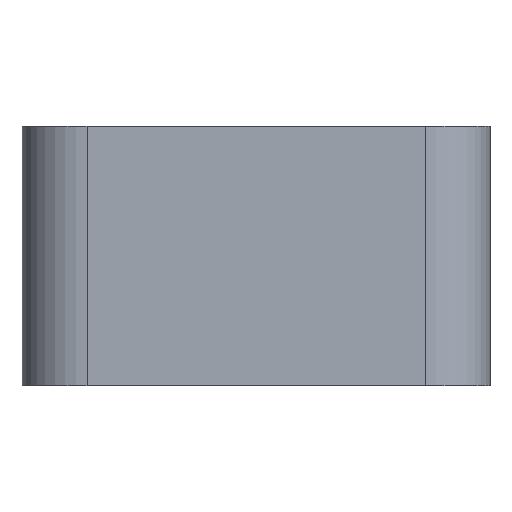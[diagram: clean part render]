
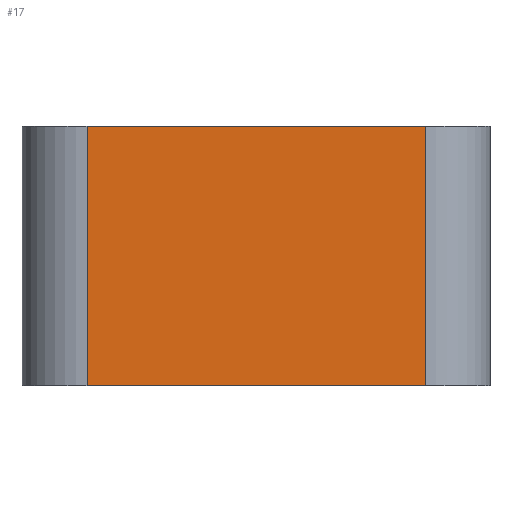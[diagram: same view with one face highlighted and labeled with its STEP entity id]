
A CAD part, left-side view. The second image highlights one B-rep face of the part: STEP entity #17.
In plain terms, the highlighted planar face has unit normal (-1, 0, 0).
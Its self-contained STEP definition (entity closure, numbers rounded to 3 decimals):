
#17 = ADVANCED_FACE('',(#18),#32,.T.);
#18 = FACE_BOUND('',#19,.T.);
#19 = EDGE_LOOP('',(#20,#55,#83,#111));
#20 = ORIENTED_EDGE('',*,*,#21,.T.);
#21 = EDGE_CURVE('',#22,#24,#26,.T.);
#22 = VERTEX_POINT('',#23);
#23 = CARTESIAN_POINT('',(-5.4,64.3,-4.95));
#24 = VERTEX_POINT('',#25);
#25 = CARTESIAN_POINT('',(-5.4,64.3,-2.95));
#26 = SURFACE_CURVE('',#27,(#31,#43),.PCURVE_S1.);
#27 = LINE('',#28,#29);
#28 = CARTESIAN_POINT('',(-5.4,64.3,-4.95));
#29 = VECTOR('',#30,1.);
#30 = DIRECTION('',(0.,0.,1.));
#31 = PCURVE('',#32,#37);
#32 = PLANE('',#33);
#33 = AXIS2_PLACEMENT_3D('',#34,#35,#36);
#34 = CARTESIAN_POINT('',(-5.4,64.3,-4.95));
#35 = DIRECTION('',(-1.,0.,0.));
#36 = DIRECTION('',(0.,1.,0.));
#37 = DEFINITIONAL_REPRESENTATION('',(#38),#42);
#38 = LINE('',#39,#40);
#39 = CARTESIAN_POINT('',(0.,0.));
#40 = VECTOR('',#41,1.);
#41 = DIRECTION('',(0.,-1.));
#42 = ( GEOMETRIC_REPRESENTATION_CONTEXT(2) 
PARAMETRIC_REPRESENTATION_CONTEXT() REPRESENTATION_CONTEXT('2D SPACE',''
  ) );
#43 = PCURVE('',#44,#49);
#44 = CYLINDRICAL_SURFACE('',#45,0.5);
#45 = AXIS2_PLACEMENT_3D('',#46,#47,#48);
#46 = CARTESIAN_POINT('',(-4.9,64.3,-4.95));
#47 = DIRECTION('',(-0.,-0.,-1.));
#48 = DIRECTION('',(1.,0.,0.));
#49 = DEFINITIONAL_REPRESENTATION('',(#50),#54);
#50 = LINE('',#51,#52);
#51 = CARTESIAN_POINT('',(-3.142,0.));
#52 = VECTOR('',#53,1.);
#53 = DIRECTION('',(-0.,-1.));
#54 = ( GEOMETRIC_REPRESENTATION_CONTEXT(2) 
PARAMETRIC_REPRESENTATION_CONTEXT() REPRESENTATION_CONTEXT('2D SPACE',''
  ) );
#55 = ORIENTED_EDGE('',*,*,#56,.T.);
#56 = EDGE_CURVE('',#24,#57,#59,.T.);
#57 = VERTEX_POINT('',#58);
#58 = CARTESIAN_POINT('',(-5.4,66.9,-2.95));
#59 = SURFACE_CURVE('',#60,(#64,#71),.PCURVE_S1.);
#60 = LINE('',#61,#62);
#61 = CARTESIAN_POINT('',(-5.4,65.6,-2.95));
#62 = VECTOR('',#63,1.);
#63 = DIRECTION('',(0.,1.,0.));
#64 = PCURVE('',#32,#65);
#65 = DEFINITIONAL_REPRESENTATION('',(#66),#70);
#66 = LINE('',#67,#68);
#67 = CARTESIAN_POINT('',(1.3,-2.));
#68 = VECTOR('',#69,1.);
#69 = DIRECTION('',(1.,0.));
#70 = ( GEOMETRIC_REPRESENTATION_CONTEXT(2) 
PARAMETRIC_REPRESENTATION_CONTEXT() REPRESENTATION_CONTEXT('2D SPACE',''
  ) );
#71 = PCURVE('',#72,#77);
#72 = PLANE('',#73);
#73 = AXIS2_PLACEMENT_3D('',#74,#75,#76);
#74 = CARTESIAN_POINT('',(0.,65.6,-2.95));
#75 = DIRECTION('',(0.,0.,1.));
#76 = DIRECTION('',(1.,0.,0.));
#77 = DEFINITIONAL_REPRESENTATION('',(#78),#82);
#78 = LINE('',#79,#80);
#79 = CARTESIAN_POINT('',(-5.4,0.));
#80 = VECTOR('',#81,1.);
#81 = DIRECTION('',(0.,1.));
#82 = ( GEOMETRIC_REPRESENTATION_CONTEXT(2) 
PARAMETRIC_REPRESENTATION_CONTEXT() REPRESENTATION_CONTEXT('2D SPACE',''
  ) );
#83 = ORIENTED_EDGE('',*,*,#84,.F.);
#84 = EDGE_CURVE('',#85,#57,#87,.T.);
#85 = VERTEX_POINT('',#86);
#86 = CARTESIAN_POINT('',(-5.4,66.9,-4.95));
#87 = SURFACE_CURVE('',#88,(#92,#99),.PCURVE_S1.);
#88 = LINE('',#89,#90);
#89 = CARTESIAN_POINT('',(-5.4,66.9,-4.95));
#90 = VECTOR('',#91,1.);
#91 = DIRECTION('',(0.,0.,1.));
#92 = PCURVE('',#32,#93);
#93 = DEFINITIONAL_REPRESENTATION('',(#94),#98);
#94 = LINE('',#95,#96);
#95 = CARTESIAN_POINT('',(2.6,0.));
#96 = VECTOR('',#97,1.);
#97 = DIRECTION('',(0.,-1.));
#98 = ( GEOMETRIC_REPRESENTATION_CONTEXT(2) 
PARAMETRIC_REPRESENTATION_CONTEXT() REPRESENTATION_CONTEXT('2D SPACE',''
  ) );
#99 = PCURVE('',#100,#105);
#100 = CYLINDRICAL_SURFACE('',#101,0.5);
#101 = AXIS2_PLACEMENT_3D('',#102,#103,#104);
#102 = CARTESIAN_POINT('',(-4.9,66.9,-4.95));
#103 = DIRECTION('',(-0.,-0.,-1.));
#104 = DIRECTION('',(1.,0.,0.));
#105 = DEFINITIONAL_REPRESENTATION('',(#106),#110);
#106 = LINE('',#107,#108);
#107 = CARTESIAN_POINT('',(-3.142,0.));
#108 = VECTOR('',#109,1.);
#109 = DIRECTION('',(-0.,-1.));
#110 = ( GEOMETRIC_REPRESENTATION_CONTEXT(2) 
PARAMETRIC_REPRESENTATION_CONTEXT() REPRESENTATION_CONTEXT('2D SPACE',''
  ) );
#111 = ORIENTED_EDGE('',*,*,#112,.F.);
#112 = EDGE_CURVE('',#22,#85,#113,.T.);
#113 = SURFACE_CURVE('',#114,(#118,#125),.PCURVE_S1.);
#114 = LINE('',#115,#116);
#115 = CARTESIAN_POINT('',(-5.4,65.6,-4.95));
#116 = VECTOR('',#117,1.);
#117 = DIRECTION('',(0.,1.,0.));
#118 = PCURVE('',#32,#119);
#119 = DEFINITIONAL_REPRESENTATION('',(#120),#124);
#120 = LINE('',#121,#122);
#121 = CARTESIAN_POINT('',(1.3,0.));
#122 = VECTOR('',#123,1.);
#123 = DIRECTION('',(1.,0.));
#124 = ( GEOMETRIC_REPRESENTATION_CONTEXT(2) 
PARAMETRIC_REPRESENTATION_CONTEXT() REPRESENTATION_CONTEXT('2D SPACE',''
  ) );
#125 = PCURVE('',#126,#131);
#126 = PLANE('',#127);
#127 = AXIS2_PLACEMENT_3D('',#128,#129,#130);
#128 = CARTESIAN_POINT('',(0.,65.6,-4.95));
#129 = DIRECTION('',(0.,0.,1.));
#130 = DIRECTION('',(1.,0.,0.));
#131 = DEFINITIONAL_REPRESENTATION('',(#132),#136);
#132 = LINE('',#133,#134);
#133 = CARTESIAN_POINT('',(-5.4,0.));
#134 = VECTOR('',#135,1.);
#135 = DIRECTION('',(0.,1.));
#136 = ( GEOMETRIC_REPRESENTATION_CONTEXT(2) 
PARAMETRIC_REPRESENTATION_CONTEXT() REPRESENTATION_CONTEXT('2D SPACE',''
  ) );
